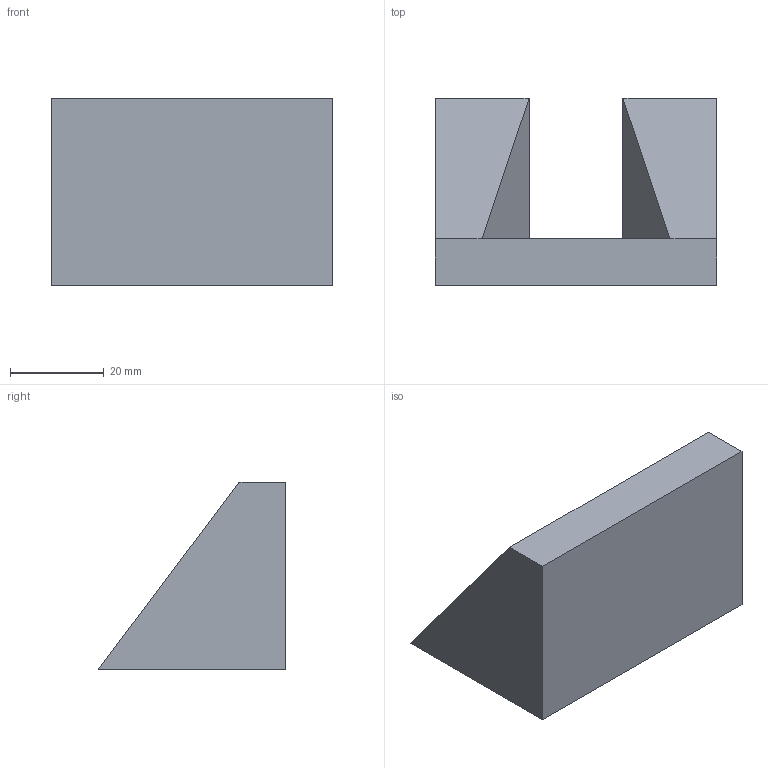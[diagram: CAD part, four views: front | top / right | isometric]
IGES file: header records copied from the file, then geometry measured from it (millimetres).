
Start section: SolidWorks IGES file using analytic representation for surfaces
Global section: file name: C:\Users\Ever Ortega Calderón\Documents\TEC\II S 2022\Física Computacional II\SOLID WORKS\Tarea 1\Ejercicio 1.IGS; native system: SolidWorks 2022; preprocessor: SolidWorks 2022; author: Ever Ortega Calderón; date: 220816.232600; units: millimetre
Bounding box: 60 x 40 x 40 mm (x, y, z)
Surface area: 10736.9 mm2 (no closed solid volume)
Topology: 0 solids, 0 shells, 10 faces, 44 edges, 44 vertices
Faces by surface type: bspline 10
